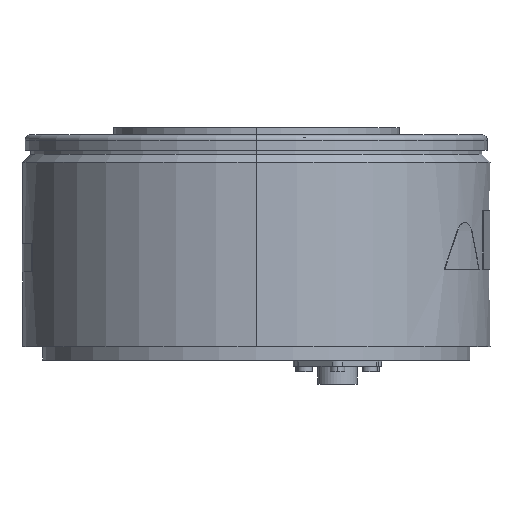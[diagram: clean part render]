
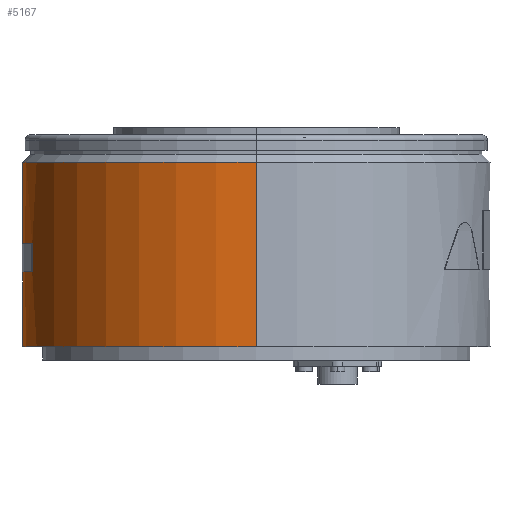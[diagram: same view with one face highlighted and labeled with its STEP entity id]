
A CAD part, left-side view. The second image highlights one B-rep face of the part: STEP entity #5167.
In plain terms, the highlighted cylindrical face has radius 87.5 mm (diameter 175 mm), a partial arc.
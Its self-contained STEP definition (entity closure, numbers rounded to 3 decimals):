
#4865 = CARTESIAN_POINT ( 'NONE',  ( -87.5, 0., 74. ) ) ;
#4870 = DIRECTION ( 'NONE',  ( -1., 0., 0. ) ) ;
#4871 = DIRECTION ( 'NONE',  ( 0., 0., -1. ) ) ;
#4872 = CARTESIAN_POINT ( 'NONE',  ( 0., 0., 74. ) ) ;
#4873 = AXIS2_PLACEMENT_3D ( 'NONE', #4872, #4871, #4870 ) ;
#4874 = CIRCLE ( 'NONE', #4873, 87.5 ) ;
#4876 = CARTESIAN_POINT ( 'NONE',  ( 87.5, 0., 74. ) ) ;
#5158 = EDGE_CURVE ( 'NONE', #5273, #5278, #8671, .T. ) ;
#5160 = EDGE_LOOP ( 'NONE', ( #5164, #5281, #5339, #5221 ) ) ;
#5164 = ORIENTED_EDGE ( 'NONE', *, *, #5158, .T. ) ;
#5167 = ADVANCED_FACE ( 'NONE', ( #8724, #8723 ), #8722, .T. ) ;
#5171 = ORIENTED_EDGE ( 'NONE', *, *, #9192, .T. ) ;
#5172 = ORIENTED_EDGE ( 'NONE', *, *, #5210, .T. ) ;
#5193 = VERTEX_POINT ( 'NONE', #8739 ) ;
#5210 = EDGE_CURVE ( 'NONE', #9191, #5193, #8773, .T. ) ;
#5216 = EDGE_LOOP ( 'NONE', ( #5171, #5172, #5305, #5300 ) ) ;
#5218 = EDGE_CURVE ( 'NONE', #5220, #5273, #8815, .T. ) ;
#5220 = VERTEX_POINT ( 'NONE', #8811 ) ;
#5221 = ORIENTED_EDGE ( 'NONE', *, *, #5218, .T. ) ;
#5273 = VERTEX_POINT ( 'NONE', #8903 ) ;
#5278 = VERTEX_POINT ( 'NONE', #8900 ) ;
#5280 = EDGE_CURVE ( 'NONE', #5278, #5334, #8898, .T. ) ;
#5281 = ORIENTED_EDGE ( 'NONE', *, *, #5280, .T. ) ;
#5299 = VERTEX_POINT ( 'NONE', #8927 ) ;
#5300 = ORIENTED_EDGE ( 'NONE', *, *, #5302, .F. ) ;
#5302 = EDGE_CURVE ( 'NONE', #9196, #5299, #8920, .T. ) ;
#5305 = ORIENTED_EDGE ( 'NONE', *, *, #5306, .F. ) ;
#5306 = EDGE_CURVE ( 'NONE', #5299, #5193, #8979, .T. ) ;
#5334 = VERTEX_POINT ( 'NONE', #9028 ) ;
#5339 = ORIENTED_EDGE ( 'NONE', *, *, #5340, .T. ) ;
#5340 = EDGE_CURVE ( 'NONE', #5334, #5220, #9021, .T. ) ;
#8668 = DIRECTION ( 'NONE',  ( 0., 0., 1. ) ) ;
#8669 = VECTOR ( 'NONE', #8668, 1000. ) ;
#8670 = CARTESIAN_POINT ( 'NONE',  ( 25., 83.853, -59.236 ) ) ;
#8671 = LINE ( 'NONE', #8670, #8669 ) ;
#8718 = DIRECTION ( 'NONE',  ( -1., 0., 0. ) ) ;
#8719 = DIRECTION ( 'NONE',  ( 0., 0., -1. ) ) ;
#8720 = CARTESIAN_POINT ( 'NONE',  ( 0., 0., -59.236 ) ) ;
#8721 = AXIS2_PLACEMENT_3D ( 'NONE', #8720, #8719, #8718 ) ;
#8722 = CYLINDRICAL_SURFACE ( 'NONE', #8721, 87.5 ) ;
#8723 = FACE_OUTER_BOUND ( 'NONE', #5216, .T. ) ;
#8724 = FACE_BOUND ( 'NONE', #5160, .T. ) ;
#8739 = CARTESIAN_POINT ( 'NONE',  ( 87.5, 0., 5. ) ) ;
#8770 = DIRECTION ( 'NONE',  ( 0., 0., -1. ) ) ;
#8771 = VECTOR ( 'NONE', #8770, 1000. ) ;
#8772 = CARTESIAN_POINT ( 'NONE',  ( 87.5, 0., -59.236 ) ) ;
#8773 = LINE ( 'NONE', #8772, #8771 ) ;
#8811 = CARTESIAN_POINT ( 'NONE',  ( -25., 83.853, 33. ) ) ;
#8812 = DIRECTION ( 'NONE',  ( 1., 0., 0. ) ) ;
#8813 = DIRECTION ( 'NONE',  ( 0., 0., -1. ) ) ;
#8814 = AXIS2_PLACEMENT_3D ( 'NONE', #8821, #8813, #8812 ) ;
#8815 = CIRCLE ( 'NONE', #8814, 87.5 ) ;
#8821 = CARTESIAN_POINT ( 'NONE',  ( 0., 0., 33. ) ) ;
#8894 = DIRECTION ( 'NONE',  ( -1., 0., 0. ) ) ;
#8895 = DIRECTION ( 'NONE',  ( 0., 0., 1. ) ) ;
#8896 = CARTESIAN_POINT ( 'NONE',  ( 0., 0., 43.5 ) ) ;
#8897 = AXIS2_PLACEMENT_3D ( 'NONE', #8896, #8895, #8894 ) ;
#8898 = CIRCLE ( 'NONE', #8897, 87.5 ) ;
#8900 = CARTESIAN_POINT ( 'NONE',  ( 25., 83.853, 43.5 ) ) ;
#8903 = CARTESIAN_POINT ( 'NONE',  ( 25., 83.853, 33. ) ) ;
#8920 = LINE ( 'NONE', #8983, #8982 ) ;
#8927 = CARTESIAN_POINT ( 'NONE',  ( -87.5, 0., 5. ) ) ;
#8975 = DIRECTION ( 'NONE',  ( -1., 0., 0. ) ) ;
#8976 = DIRECTION ( 'NONE',  ( 0., 0., -1. ) ) ;
#8977 = CARTESIAN_POINT ( 'NONE',  ( 0., 0., 5. ) ) ;
#8978 = AXIS2_PLACEMENT_3D ( 'NONE', #8977, #8976, #8975 ) ;
#8979 = CIRCLE ( 'NONE', #8978, 87.5 ) ;
#8981 = DIRECTION ( 'NONE',  ( 0., 0., -1. ) ) ;
#8982 = VECTOR ( 'NONE', #8981, 1000. ) ;
#8983 = CARTESIAN_POINT ( 'NONE',  ( -87.5, 0., -59.236 ) ) ;
#9018 = DIRECTION ( 'NONE',  ( 0., 0., -1. ) ) ;
#9019 = VECTOR ( 'NONE', #9018, 1000. ) ;
#9020 = CARTESIAN_POINT ( 'NONE',  ( -25., 83.853, -59.236 ) ) ;
#9021 = LINE ( 'NONE', #9020, #9019 ) ;
#9028 = CARTESIAN_POINT ( 'NONE',  ( -25., 83.853, 43.5 ) ) ;
#9191 = VERTEX_POINT ( 'NONE', #4876 ) ;
#9192 = EDGE_CURVE ( 'NONE', #9196, #9191, #4874, .T. ) ;
#9196 = VERTEX_POINT ( 'NONE', #4865 ) ;
